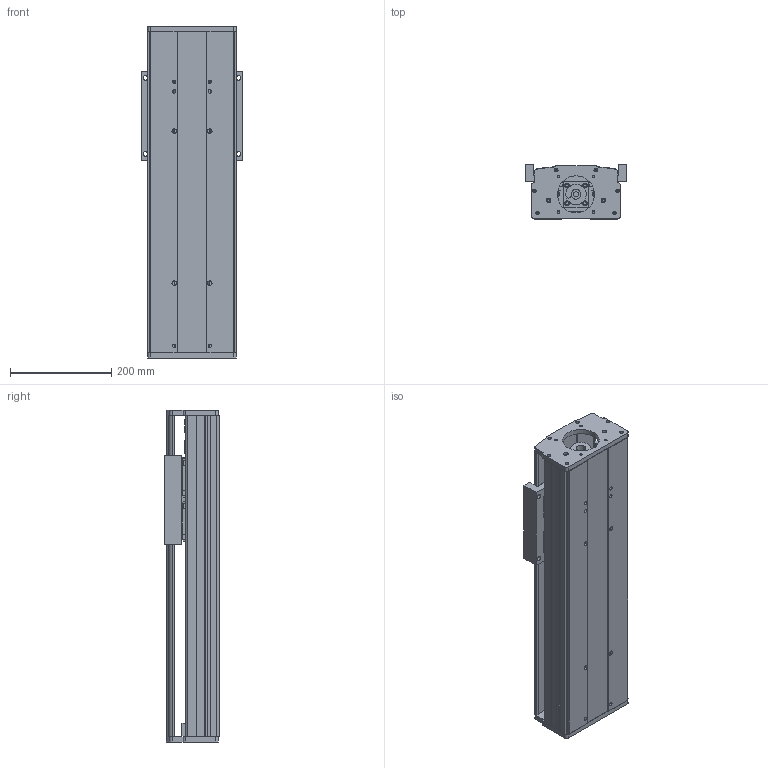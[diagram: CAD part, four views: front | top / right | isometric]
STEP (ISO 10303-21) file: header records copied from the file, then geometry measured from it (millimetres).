
FILE_DESCRIPTION (( 'STEP AP203' ), '1' );
FILE_NAME ('CF175-1-P300.STEP', '2016-02-23T07:01:40', ( 'Sky123.Org' ), ( 'Sky123.Org' ), 'SwSTEP 2.0', 'SolidWorks 2015', '' );
FILE_SCHEMA (( 'CONFIG_CONTROL_DESIGN' ));
Length unit declared in the file: millimetre
Products named in the file (23): 40-66; cf175-SFS2525蹟譫釱; 綴杶; HGR20絳寢-1140; SFU2510-BK20+BF20; ヶ杶; SFU2510-4; 175-1-86祭輛萇儂釱; 粣創裔; CF175-1-P300; 175-1耜啣; angular contact ball bearings gb_Rolling bearings S7004 GB 292-94; CF175-1175裔啣; BK20蚾饜极1; CF175-1175臏倰第; BF; CF-HGH20CA賑輸; 1; deep groove ball bearings gb_Rolling bearings 6004 GB 276-94; 175賑雄啣; 蝶菜; BF20蚾饜极1; BK20
Assembly tree (28 placements, depth 3):
  CF175-1-P300
    CF-HGH20CA賑輸  x4
    175賑雄啣
    BK20蚾饜极1
      BK20
      綴杶
      ヶ杶
      粣創裔
      angular contact ball bearings gb_Rolling bearings S7004 GB 292-94  x2
    BF20蚾饜极1
      BF
      deep groove ball bearings gb_Rolling bearings 6004 GB 276-94
    cf175-SFS2525蹟譫釱
    SFU2510-BK20+BF20
    175-1-86祭輛萇儂釱
    175-1耜啣
    CF175-1175裔啣
    CF175-1175臏倰第
    40-66
      1  x2
      蝶菜
    HGR20絳寢-1140  x2
    SFU2510-4
Bounding box: 200 x 107.5 x 655 mm (x, y, z)
Volume: 5668226.2 mm3; surface area: 1513052.9 mm2
Topology: 29 solids, 29 shells, 1638 faces, 5084 edges, 3390 vertices
Faces by surface type: cylinder 678, plane 674, torus 168, sphere 96, cone 20, bspline 2
Entity records: 50910 total; most frequent: CARTESIAN_POINT 16181, ORIENTED_EDGE 6932, DIRECTION 6601, EDGE_CURVE 3466, AXIS2_PLACEMENT_3D 2546, VERTEX_POINT 2309, LINE 1509, VECTOR 1509
